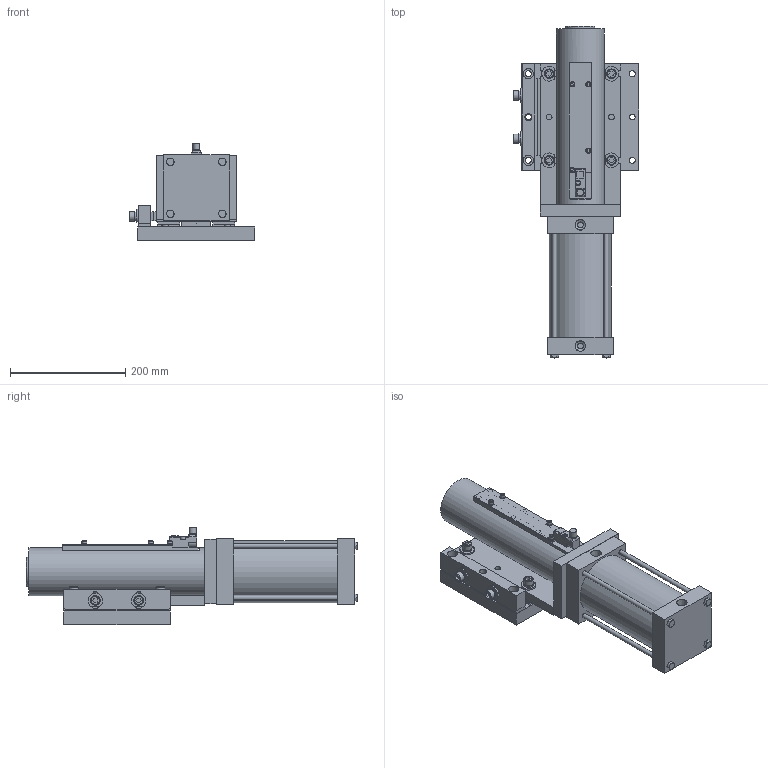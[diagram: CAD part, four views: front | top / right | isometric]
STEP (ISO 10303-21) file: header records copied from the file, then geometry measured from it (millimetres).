
FILE_DESCRIPTION(/* description */ (''),/* implementation_level */ '2;1');
FILE_NAME(/* name */ 'C:\TEMP\HP5 Bull Pins\HP5-P1M2VE000.stp',/* time_stamp */ '2016-01-20T07:22:48-05:00',/* author */ ('klabrecque'),/* organization */ (''),/* preprocessor_version */ 'ST-DEVELOPER v15.2',/* originating_system */ 'Autodesk Inventor 2014',/* authorisation */ '');
FILE_SCHEMA (('AUTOMOTIVE_DESIGN { 1 0 10303 214 3 1 1 }'));
Length unit declared in the file: millimetre
Products named in the file (33): HP5E01; HP5E04; HP5E05; M10X1.5-50 SHCS; 12mmX40 DOWEL; NL10; DSC-D-M10; S01674E03; S01674E04; S01674E02; 0.313-24X10.000 HEX; HP5E03; M4X0.7-10 SHCS; M6X1-20 SHCS; NL6; HP5E13; HP5E14; HP5E10; HP5E08; HP5E09; HP5E15; HP5E11; M10X1.5-45 SHCS; End Weld; Side Weld; Side Weld mid; Side Weld2; M5X0.8-10 SHCS; M5X0.8-25 SHCS; NL5; WORLD-SWITCH-BODY_PF; 6950160; HP5-P1M2VE000
Bounding box: 218.1 x 575.18 x 169.27 mm (x, y, z)
Volume: 4791177.2 mm3; surface area: 979261.3 mm2
Topology: 76 solids, 76 shells, 1026 faces, 2279 edges, 1490 vertices
Faces by surface type: plane 598, cylinder 292, cone 120, torus 6, sphere 6, bspline 4
Full cylindrical faces by diameter (mm): 2 x2, 3.242 x8, 4 x13, 4.134 x14, 4.5 x6, 4.917 x4, 5 x5, 5.3 x1, 5.4 x4, 5.5 x4, 6 x2, 6.35 x2, 6.5 x2, 6.647 x1, 6.782 x4, 7 x12, 7.938 x4, 8 x6, 8.376 x8, 8.5 x13, 9 x4, 10 x15, 10.1 x6, 10.5 x8, 10.7 x6, 10.8 x1, 11 x7, 11.43 x4, 11.5 x1, 12 x8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
Entity records: 18051 total; most frequent: CARTESIAN_POINT 3551, DIRECTION 3010, ORIENTED_EDGE 2330, AXIS2_PLACEMENT_3D 1175, EDGE_CURVE 1165, EDGE_LOOP 1032, VERTEX_POINT 877, LINE 660
